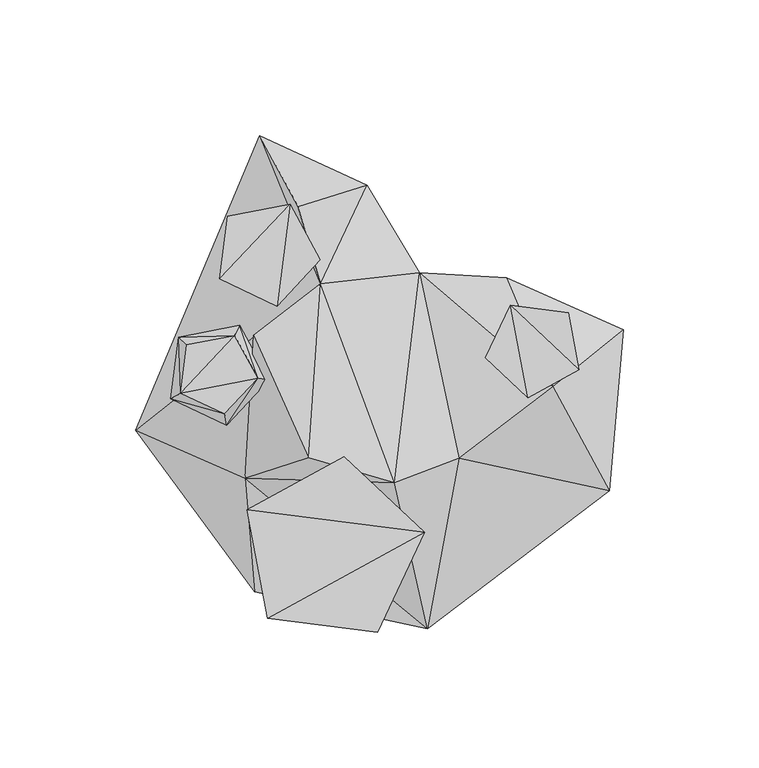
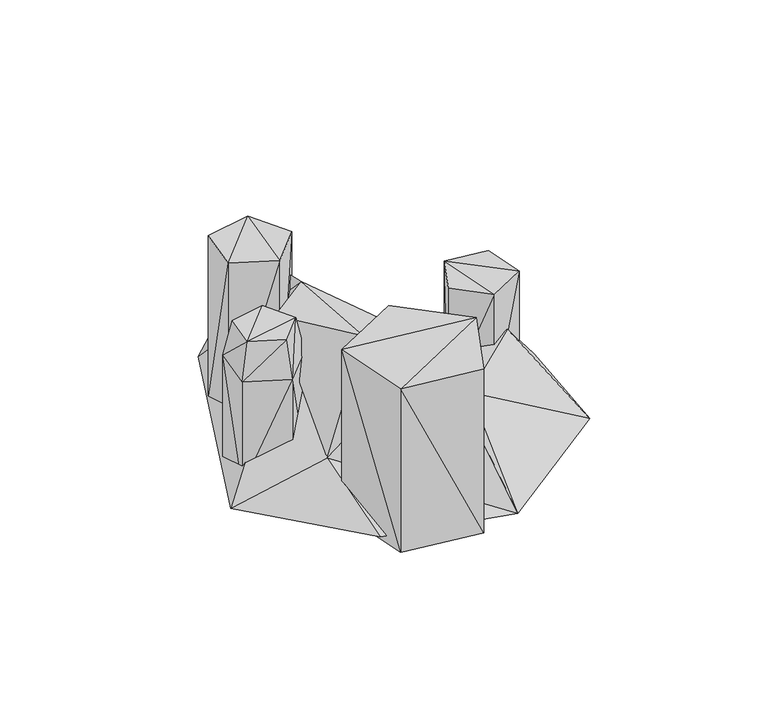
"""IFC4 building model written with IfcOpenShell, lengths in millimetres: geographic element geometry, Enscape AssetDefinition - Candle Tray 03 : Enscape AssetDefinition - Candle Tray 03."""

import ifcopenshell
import ifcopenshell.guid

model = None  # the IFC model being written
_history = None  # IfcOwnerHistory: only IFC2X3 demands one
_inside = {}  # id of a spatial element -> (the spatial element, [elements in it])
_under = {}  # id of a project, library or spatial element -> (it, [spatial elements below it])
_declared = {}  # id of a project -> (the project, [libraries it declares])
_typed = {}  # id of a type object -> (the type object, [elements of that type])
_made_of = {}  # id of a material, layer set ... -> (it, [elements and type objects made of it])


def new_model(schema):
    """Start an empty IFC model of exactly this schema.

    Asked for "IFC4X3", IfcOpenShell would pick the latest addendum, in which some entities
    have other attributes; the version numbers below select the first issue.
    IFC2X3 requires an IfcOwnerHistory on every rooted entity: one is made here for all.
    """
    global model, _history
    if schema == "IFC4X3":
        model = ifcopenshell.file(schema_version=(4, 3, 0, 0))
    else:
        model = ifcopenshell.file(schema=schema)
    _inside.clear()
    _under.clear()
    _declared.clear()
    _typed.clear()
    _made_of.clear()
    _history = None
    if model.schema == "IFC2X3":
        org = make("IfcOrganization", Name="unknown")
        user = make(
            "IfcPersonAndOrganization",
            ThePerson=make("IfcPerson", FamilyName="unknown"),
            TheOrganization=org,
        )
        app = make(
            "IfcApplication",
            ApplicationDeveloper=org,
            Version="unknown",
            ApplicationFullName="unknown",
            ApplicationIdentifier="unknown",
        )
        _history = make(
            "IfcOwnerHistory",
            OwningUser=user,
            OwningApplication=app,
            ChangeAction="ADDED",
            CreationDate=0,
        )
    return model


def make(cls, **values):
    """One entity of the class cls with the attributes given. An attribute that is None is left unset."""
    return model.create_entity(
        cls, **{name: value for name, value in values.items() if value is not None}
    )


def rooted(cls, **values):
    """An entity with a GlobalId (a new one), such as an element, a storey or a relation."""
    return make(cls, GlobalId=ifcopenshell.guid.new(), OwnerHistory=_history, **values)


def si_unit(unit_type, name, prefix=None):
    """IfcSIUnit, for example si_unit("LENGTHUNIT", "METRE", prefix="MILLI")."""
    return make("IfcSIUnit", UnitType=unit_type, Prefix=prefix, Name=name)


def assignment(units):
    """IfcUnitAssignment: the units of a project."""
    return None if units is None else make("IfcUnitAssignment", Units=units)


def point(xyz):
    """IfcCartesianPoint."""
    return None if xyz is None else make("IfcCartesianPoint", Coordinates=xyz)


def direction(xyz):
    """IfcDirection."""
    return None if xyz is None else make("IfcDirection", DirectionRatios=xyz)


def frame(location, z_axis=None, x_axis=None):
    """IfcAxis2Placement3D, a coordinate frame: its origin and axes. An axis left out is left unset."""
    return make(
        "IfcAxis2Placement3D",
        Location=point(location),
        Axis=direction(z_axis),
        RefDirection=direction(x_axis),
    )


def origin():
    """The frame at (0, 0, 0) with its axes left unset."""
    return frame((0.0, 0.0, 0.0))


def place(relative_to, where):
    """IfcLocalPlacement: puts the frame where relative to a parent placement (None: the world)."""
    return make(
        "IfcLocalPlacement", PlacementRelTo=relative_to, RelativePlacement=where
    )


def context(
    kind, dimensions, precision=None, world=None, true_north=None, identifier=None
):
    """IfcGeometricRepresentationContext, for example the 3D "Model" context."""
    return make(
        "IfcGeometricRepresentationContext",
        ContextIdentifier=identifier,
        ContextType=kind,
        CoordinateSpaceDimension=dimensions,
        Precision=precision,
        WorldCoordinateSystem=world,
        TrueNorth=true_north,
    )


def project(units=None, contexts=None):
    """IfcProject with its units and contexts."""
    return rooted(
        "IfcProject",
        Name="project",
        RepresentationContexts=contexts,
        UnitsInContext=assignment(units),
    )


def spatial(cls, under=None, at=None, **own):
    """A site, building, storey or space (cls), placed at a placement, below another one or the project."""
    s = rooted(cls, ObjectPlacement=at, **own)
    if under is not None:
        _under.setdefault(under.id(), (under, []))[1].append(s)
    return s


def faces_of(points, faces, orient=None, outer=None):
    """IfcFace entities. A face is a list of loops; a loop is a list of indices into points, from 0.

    orient and outer hold one flag for each loop. By default every Orientation is true, the
    first loop of a face is its IfcFaceOuterBound and the others are IfcFaceBound.
    """
    made = []
    for i, loops in enumerate(faces):
        bounds = []
        for j, loop in enumerate(loops):
            is_outer = j == 0 if outer is None else outer[i][j]
            bounds.append(
                make(
                    "IfcFaceOuterBound" if is_outer else "IfcFaceBound",
                    Bound=make("IfcPolyLoop", Polygon=[points[k] for k in loop]),
                    Orientation=True if orient is None else orient[i][j],
                )
            )
        made.append(make("IfcFace", Bounds=bounds))
    return made


def faceted_brep(points, faces, orient=None, outer=None, voids=None):
    """IfcFacetedBrep: a solid bounded by flat faces; with voids (closed shells), ...WithVoids."""
    shared = [point(p) for p in points]
    hull = make("IfcClosedShell", CfsFaces=faces_of(shared, faces, orient, outer))
    if voids is None:
        return make("IfcFacetedBrep", Outer=hull)
    return make(
        "IfcFacetedBrepWithVoids",
        Outer=hull,
        Voids=[
            make(cls, CfsFaces=faces_of(shared, fs, o, b)) for cls, fs, o, b in voids
        ],
    )


def shape(context_of_items, identifier, shape_type, items):
    """IfcShapeRepresentation: the items that make up one representation, for example the "Body"."""
    return make(
        "IfcShapeRepresentation",
        ContextOfItems=context_of_items,
        RepresentationIdentifier=identifier,
        RepresentationType=shape_type,
        Items=items,
    )


def source(mapping_origin, context_of_items, identifier, shape_type, items):
    """IfcRepresentationMap: a shape defined once, which mapped items show again and again."""
    return make(
        "IfcRepresentationMap",
        MappingOrigin=mapping_origin,
        MappedRepresentation=shape(context_of_items, identifier, shape_type, items),
    )


def transform(
    local_origin,
    x_axis=None,
    y_axis=None,
    z_axis=None,
    scale=None,
    scale2=None,
    scale3=None,
    uniform=True,
):
    """IfcCartesianTransformationOperator3D, or its non-uniform kind. x_axis, y_axis, z_axis: its Axis1, 2, 3."""
    if uniform:
        return make(
            "IfcCartesianTransformationOperator3D",
            Axis1=direction(x_axis),
            Axis2=direction(y_axis),
            LocalOrigin=point(local_origin),
            Scale=scale,
            Axis3=direction(z_axis),
        )
    return make(
        "IfcCartesianTransformationOperator3DnonUniform",
        Axis1=direction(x_axis),
        Axis2=direction(y_axis),
        LocalOrigin=point(local_origin),
        Scale=scale,
        Axis3=direction(z_axis),
        Scale2=scale2,
        Scale3=scale3,
    )


def mapped(mapping_source, mapping_target):
    """IfcMappedItem: shows the shape of a source again, moved by a transform."""
    return make(
        "IfcMappedItem", MappingSource=mapping_source, MappingTarget=mapping_target
    )


def made_of(thing, what):
    """Note that an element or type object is made of a material, layer set ...; save() writes the relation."""
    if what is not None:
        _made_of.setdefault(what.id(), (what, []))[1].append(thing)
    return thing


def element(
    cls,
    number,
    at=None,
    inside=None,
    cuts=None,
    type_object=None,
    material=None,
    context=None,
    identifier="Body",
    shape_type=None,
    held_by="IfcProductDefinitionShape",
    body=None,
    shapes=None,
    **own,
):
    """One element of the class cls, such as IfcWall. Its Tag is "e" and its number.

    at: its placement. inside: the storey or other place that contains it. cuts: it is an
    opening in that element (IfcRelVoidsElement). A single representation is given by context,
    identifier, shape_type and body (its items); several are given by shapes. held_by: the class
    of the entity that holds the representations. save() writes the other relations.
    """
    e = rooted(cls, Tag="e%d" % number, ObjectPlacement=at, **own)
    if body is not None:
        shapes = [shape(context, identifier, shape_type, body)]
    if shapes is not None:
        e.Representation = make(held_by, Representations=shapes)
    if inside is not None:
        _inside.setdefault(inside.id(), (inside, []))[1].append(e)
    if cuts is not None:
        rooted(
            "IfcRelVoidsElement", RelatingBuildingElement=cuts, RelatedOpeningElement=e
        )
    if type_object is not None:
        _typed.setdefault(type_object.id(), (type_object, []))[1].append(e)
    return made_of(e, material)


def aggregate(whole, parts):
    """IfcRelAggregates: a whole, such as a stair, and the parts it consists of."""
    return rooted("IfcRelAggregates", RelatingObject=whole, RelatedObjects=parts)


def save(model, path):
    """Write the relations noted so far, then the file.

    IfcRelAggregates (storeys below a building ...), IfcRelContainedInSpatialStructure (elements
    in a storey), IfcRelDefinesByType, IfcRelAssociatesMaterial and IfcRelDeclares: one each for
    every whole, place, type object, material and project.
    """
    for whole, parts in _under.values():
        aggregate(whole, parts)
    for where, things in _inside.values():
        rooted(
            "IfcRelContainedInSpatialStructure",
            RelatedElements=things,
            RelatingStructure=where,
        )
    for kind, things in _typed.values():
        rooted("IfcRelDefinesByType", RelatedObjects=things, RelatingType=kind)
    for what, things in _made_of.values():
        rooted("IfcRelAssociatesMaterial", RelatedObjects=things, RelatingMaterial=what)
    for by, libraries in _declared.values():
        rooted("IfcRelDeclares", RelatingContext=by, RelatedDefinitions=libraries)
    model.write(path)


def geographic_element_47339385(model_context):
    return source(origin(), model_context, "Body", "Brep", [
        faceted_brep([(20.2300008, -49.78, 90.4359967), (2.8240001, -86.6020024, 90.4359967), (20.2300008, -49.78, 0.0), (-37.574999, -81.4270005, 90.4359967), (2.8240001, -86.6020024, 0.0), (-45.1369993, -41.4059982, 90.4359967), (-37.574999, -81.4270005, 0.0), (-9.412, -21.8470003, 90.4359967), (-45.1369993, -41.4059982, 0.0), (-9.412, -21.8470003, 0.0)], [[[0, 1, 2]], [[1, 3, 4]], [[3, 5, 6]], [[5, 7, 8]], [[8, 2, 6]], [[3, 0, 5]], [[7, 0, 9]], [[2, 1, 4]], [[4, 3, 6]], [[6, 5, 8]], [[8, 7, 9]], [[2, 8, 9]], [[6, 2, 4]], [[0, 3, 1]], [[5, 0, 7]], [[9, 0, 2]]]),
        faceted_brep([(42.7770019, 14.5650003, 59.7350001), (51.936999, 33.9430012, 59.7350001), (42.7770019, 14.5650003, 0.0), (51.936999, 33.9430012, 0.0), (58.3759993, -0.135, 0.0), (73.1969997, 31.219, 59.7350001), (73.1969997, 31.219, 0.0), (77.1759972, 10.1579996, 59.7350001), (77.1759972, 10.1579996, 0.0), (58.3759993, -0.135, 59.7350001)], [[[0, 1, 2]], [[3, 4, 2]], [[5, 6, 1]], [[7, 8, 5]], [[9, 4, 7]], [[7, 1, 9]], [[0, 2, 9]], [[2, 1, 3]], [[8, 3, 6]], [[3, 8, 4]], [[1, 6, 3]], [[5, 8, 6]], [[7, 4, 8]], [[1, 7, 5]], [[9, 1, 0]], [[9, 2, 4]]]),
        faceted_brep([(-47.9819998, 26.4410004, 57.6820001), (-36.9919986, 6.3680001, 57.6820001), (-47.9819998, 26.4410004, 0.0), (-52.6870005, -10.2859996, 57.6820001), (-36.9919986, 6.3680001, 0.0), (-41.1790013, 6.904, 77.5600001), (-70.4680011, 22.1919995, 0.0), (-70.4680011, 22.1919995, 57.6820001), (-49.7860014, 22.6240009, 77.5600001), (-53.470999, -6.1380002, 77.5600001), (-69.6730018, 1.5210001, 77.5600001), (-67.396, 19.297, 77.5600001), (-73.3759999, -0.506, 57.6820001), (-73.3759999, -0.506, 0.0), (-52.6870005, -10.2859996, 0.0)], [[[0, 1, 2]], [[1, 3, 4]], [[2, 1, 4]], [[5, 3, 1]], [[0, 5, 1]], [[6, 7, 2]], [[4, 6, 2]], [[2, 7, 0]], [[0, 7, 8]], [[8, 5, 0]], [[9, 3, 5]], [[10, 9, 5]], [[10, 5, 8]], [[10, 8, 11]], [[8, 7, 11]], [[10, 12, 9]], [[11, 7, 10]], [[10, 7, 12]], [[12, 7, 13]], [[13, 7, 6]], [[6, 4, 13]], [[14, 3, 13]], [[13, 3, 12]], [[13, 4, 14]], [[9, 12, 3]], [[4, 3, 14]]]),
        faceted_brep([(-52.3150004, 66.6899979, 0.0), (-18.2109997, 50.5679995, 0.0), (-55.2779995, 43.5650013, 0.0), (-55.2779995, 43.5650013, 90.4359967), (-34.2000015, 33.6010009, 90.4359967), (-18.2109997, 50.5679995, 90.4359967), (-29.4070002, 71.0180029, 90.4359967), (-52.3150004, 66.6899979, 90.4359967), (-29.4070002, 71.0180029, 0.0), (-34.2000015, 33.6010009, 0.0)], [[[0, 1, 2]], [[2, 3, 0]], [[3, 2, 4]], [[5, 1, 6]], [[0, 7, 8]], [[4, 6, 3]], [[4, 9, 5]], [[1, 0, 8]], [[2, 1, 9]], [[0, 3, 7]], [[4, 2, 9]], [[6, 1, 8]], [[8, 7, 6]], [[6, 4, 5]], [[3, 6, 7]], [[5, 9, 1]]]),
        faceted_brep([(32.9729989, -22.4489998, 27.9019997), (9.1690002, -31.4249992, 68.648003), (21.3530008, -85.3200033, 3.3239999), (-45.9729992, -29.8640002, 23.9039995), (-22.4939995, -22.2609993, 78.3450007), (18.4530001, 45.8660014, 12.0529998), (-18.1779992, 41.7970009, 68.1580007), (88.3290023, -34.4740003, 1.604), (67.5709993, 3.8620001, 34.6879996), (93.5269967, 24.7900002, -0.607), (50.485, 44.075001, 14.1650001), (-0.941, 78.1550035, 10.2089997), (-40.5040011, 96.3639989, 1.651), (-86.2770006, -12.0890001, -0.645), (-42.4919985, -71.7289969, 4.6509998), (-26.4149997, 70.2499971, 69.6820021), (-42.7730009, 22.9059998, 69.4499984)], [[[0, 1, 2]], [[3, 2, 1]], [[1, 4, 3]], [[0, 5, 1]], [[1, 5, 6]], [[6, 4, 1]], [[0, 2, 7]], [[7, 8, 0]], [[8, 5, 0]], [[8, 7, 9]], [[2, 5, 7]], [[7, 5, 9]], [[10, 5, 8]], [[10, 8, 9]], [[9, 5, 10]], [[6, 5, 11]], [[12, 11, 5]], [[5, 13, 12]], [[14, 13, 5]], [[2, 14, 5]], [[6, 11, 15]], [[12, 15, 11]], [[12, 6, 15]], [[12, 13, 6]], [[3, 6, 13]], [[3, 13, 14]], [[2, 3, 14]], [[3, 4, 16]], [[6, 3, 16]], [[4, 6, 16]]]),
    ])


if __name__ == "__main__":
    model = new_model("IFC4")
    model_context = context("Model", 3, world=origin())
    ifc_project = project(units=[si_unit("LENGTHUNIT", "METRE", prefix="MILLI")], contexts=[model_context])
    site = spatial("IfcSite", under=ifc_project)
    building = spatial("IfcBuilding", under=site)
    placement = place(None, origin())
    geographic_element_shape = geographic_element_47339385(model_context)
    element("IfcGeographicElement", 1, ObjectType="Enscape AssetDefinition - Candle Tray 03 : Enscape AssetDefinition - Candle Tray 03", at=placement, inside=building, context=model_context, shape_type="MappedRepresentation", body=[
        mapped(geographic_element_shape, transform((0.0, 0.0, 0.0), x_axis=(1.0, 0.0, 0.0), y_axis=(0.0, 1.0, 0.0), z_axis=(0.0, 0.0, 1.0))),
    ])
    save(model, "model.ifc")
